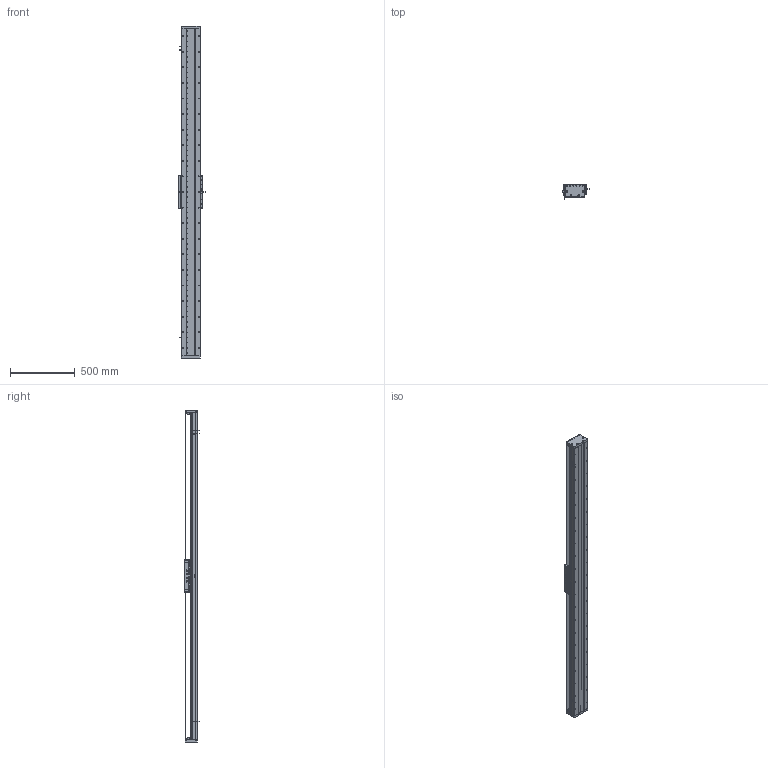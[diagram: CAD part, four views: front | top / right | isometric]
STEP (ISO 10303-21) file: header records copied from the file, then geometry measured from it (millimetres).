
FILE_DESCRIPTION (( 'STEP AP214' ), '1' );
FILE_NAME ('DA-C145-C3-T2220-C010-0.2 眻盄萇儂.STEP', '2025-08-14T01:32:08', ( '' ), ( '' ), 'SwSTEP 2.0', 'SolidWorks 2019', '' );
FILE_SCHEMA (( 'AUTOMOTIVE_DESIGN' ));
Length unit declared in the file: millimetre
Products named in the file (32): 葩璃 DMA-010-0.2 黍杅芛^DA-C145-C3-T-C010-0.2; 复件 DA145-GYP-00 光电感应片^DA-C145-C3-T-C010-0.2; 复件 纯铜油杯 6x6mm^CU145-W 滚珠滑台; 葩璃 PM-T45^DA-C145-C3-T-C010-0.2; 复件 DA95-DB-00  挡板^CU145-W 滚珠滑台; 66245-CU145-HT-W-00 賑雄怢啣(3D芞祧)(00); DA-C145-C3-T2220-C010-0.2 眻盄萇儂; 葩璃 CKMA01-W060-TRL^DA-C145-C3-T-C010-0.2; IU-CU145-L 菁釱絳寢; IU-CU145-L-00 菁釱(L2520); 葩璃 DA95-GT-T-00^IU-CU145-L 菁釱絳寢; 复件 DA145 钢带^复件 CU145 钢带组件_DA-C145-C3-T-C010-0.2; 葩璃 鞠褒情蹟譫 M3^DA-C145-C3-T-C010-0.2; 复件 DA95-HK-GT-00 滑块钢轨^CU145-W-00 一体化滑动台板; 复件 DA145-C3-YB-B-00 压板B^CU145-W 滚珠滑台; 复件 DA146 钢带垫块^复件 CU145 钢带组件_DA-C145-C3-T-C010-0.2; 复件 DA145-C3-DK-00 挡块^CU145-W 滚珠滑台; 复件 DA145-DG 钢带端盖^复件 CU145 钢带组件_DA-C145-C3-T-C010-0.2; 复件 DA145-C3-YB-A-00 压板A^CU145-W 滚珠滑台; 复件 DA95-MFP-01 密封片^CU145-W 滚珠滑台; 葩璃 CU145 詩湍郪璃^DA-C145-C3-T-C010-0.2; CU145-W-00 珨极趙賑雄怢啣; 葩璃 DA145-C3-DP-B-00 菜えB^CU145-W 幗紩賑怢; 葩璃 CKM03-W060-C1C2-TP-0.2^DA-C145-C3-T-C010-0.2; TAY01-M8; 复件 半圆头内六角螺钉 M3×6^CU145-W 滚珠滑台; 复件 内六角平端紧定螺钉 GB.T77-2000 M5×10^CU145-W 滚珠滑台; 葩璃 DA145-C3-DP-A-00 菜えA^CU145-W 幗紩賑怢; 复件 DA146 钢带拉块^复件 CU145 钢带组件_DA-C145-C3-T-C010-0.2; 葩璃 DA95-HXJ-00 遣喳砎蝶^DA-C145-C3-T-C010-0.2; CU145-W 幗紩賑怢; 葩璃 XD-U-02L 棠掑喜^DA-C145-C3-T-C010-0.2
Assembly tree (103 placements, depth 4):
  DA-C145-C3-T2220-C010-0.2 眻盄萇儂
    IU-CU145-L 菁釱絳寢
      IU-CU145-L-00 菁釱(L2520)
      葩璃 DA95-GT-T-00^IU-CU145-L 菁釱絳寢  x4
    葩璃 CU145 詩湍郪璃^DA-C145-C3-T-C010-0.2
      复件 DA145-DG 钢带端盖^复件 CU145 钢带组件_DA-C145-C3-T-C010-0.2  x2
      复件 DA146 钢带拉块^复件 CU145 钢带组件_DA-C145-C3-T-C010-0.2  x2
      复件 DA146 钢带垫块^复件 CU145 钢带组件_DA-C145-C3-T-C010-0.2  x2
      复件 DA145 钢带^复件 CU145 钢带组件_DA-C145-C3-T-C010-0.2
    CU145-W 幗紩賑怢
      CU145-W-00 珨极趙賑雄怢啣
        66245-CU145-HT-W-00 賑雄怢啣(3D芞祧)(00)
        复件 DA95-HK-GT-00 滑块钢轨^CU145-W-00 一体化滑动台板  x8
      复件 DA95-MFP-01 密封片^CU145-W 滚珠滑台  x8
      复件 DA95-DB-00  挡板^CU145-W 滚珠滑台  x8
      复件 内六角平端紧定螺钉 GB.T77-2000 M5×10^CU145-W 滚珠滑台  x4
      复件 纯铜油杯 6x6mm^CU145-W 滚珠滑台  x4
      复件 半圆头内六角螺钉 M3×6^CU145-W 滚珠滑台  x16
      复件 DA145-C3-DK-00 挡块^CU145-W 滚珠滑台  x4
      葩璃 DA145-C3-DP-B-00 菜えB^CU145-W 幗紩賑怢  x2
      复件 DA145-C3-YB-B-00 压板B^CU145-W 滚珠滑台  x2
      葩璃 DA145-C3-DP-A-00 菜えA^CU145-W 幗紩賑怢  x3
      复件 DA145-C3-YB-A-00 压板A^CU145-W 滚珠滑台  x3
      TAY01-M8  x4
    葩璃 CKMA01-W060-TRL^DA-C145-C3-T-C010-0.2
    葩璃 PM-T45^DA-C145-C3-T-C010-0.2  x3
    葩璃 XD-U-02L 棠掑喜^DA-C145-C3-T-C010-0.2
    葩璃 DA95-HXJ-00 遣喳砎蝶^DA-C145-C3-T-C010-0.2  x4
    复件 DA145-GYP-00 光电感应片^DA-C145-C3-T-C010-0.2
    葩璃 DMA-010-0.2 黍杅芛^DA-C145-C3-T-C010-0.2
    葩璃 CKM03-W060-C1C2-TP-0.2^DA-C145-C3-T-C010-0.2
    葩璃 鞠褒情蹟譫 M3^DA-C145-C3-T-C010-0.2  x8
Bounding box: 203.5 x 108.45 x 2556 mm (x, y, z)
Volume: 12125513.1 mm3; surface area: 4031661.7 mm2
Topology: 99 solids, 131 shells, 4622 faces, 13142 edges, 8226 vertices
Faces by surface type: cylinder 2260, plane 1594, cone 690, torus 74, sphere 4
Entity records: 122803 total; most frequent: CARTESIAN_POINT 37176, ORIENTED_EDGE 17804, DIRECTION 17029, EDGE_CURVE 8902, AXIS2_PLACEMENT_3D 6398, VERTEX_POINT 5765, VECTOR 4233, LINE 4233
